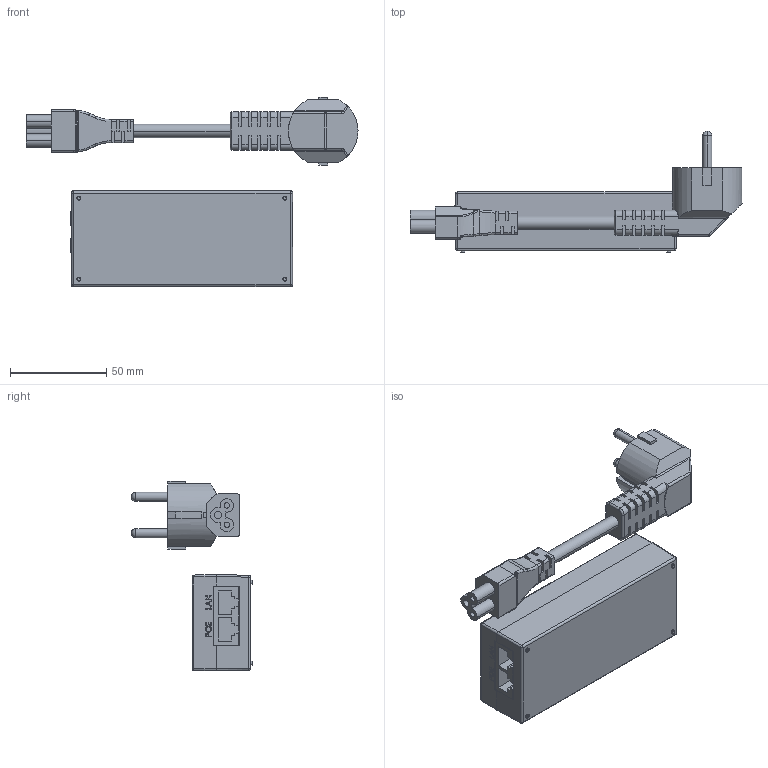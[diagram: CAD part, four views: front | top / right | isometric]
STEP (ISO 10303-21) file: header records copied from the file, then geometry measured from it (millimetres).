
FILE_DESCRIPTION (( 'STEP AP214' ), '1' );
FILE_NAME ('PR325EUB.STEP', '2025-07-15T09:52:23', ( '' ), ( '' ), 'SwSTEP 2.0', 'SolidWorks 2024', '' );
FILE_SCHEMA (( 'AUTOMOTIVE_DESIGN' ));
Length unit declared in the file: millimetre
Products named in the file (4): PR325EUB; PR325EUB EU KISTUKAS; PR325EUB blokelis; PR325EUB KISTUKAS
Assembly tree (3 placements, depth 2):
  PR325EUB
    PR325EUB blokelis
    PR325EUB EU KISTUKAS
    PR325EUB KISTUKAS
Bounding box: 172.45 x 63.06 x 98.58 mm (x, y, z)
Volume: 218084.7 mm3; surface area: 43529.8 mm2
Topology: 3 solids, 3 shells, 493 faces, 1290 edges, 820 vertices
Faces by surface type: plane 285, cylinder 138, bspline 30, sphere 24, torus 8, cone 8
Entity records: 18207 total; most frequent: CARTESIAN_POINT 4108, ORIENTED_EDGE 2544, DIRECTION 2404, EDGE_CURVE 1272, VECTOR 904, LINE 904, VERTEX_POINT 812, AXIS2_PLACEMENT_3D 750
